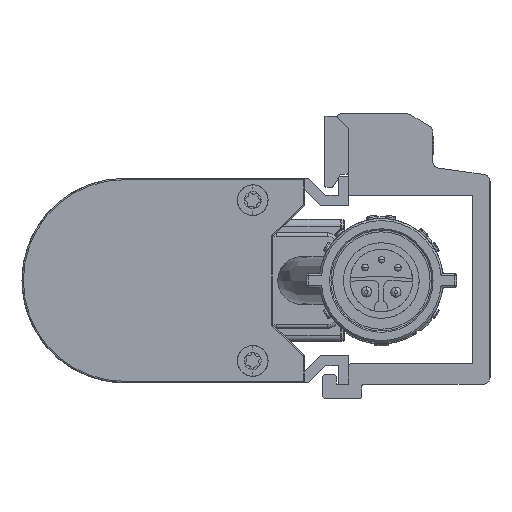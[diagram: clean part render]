
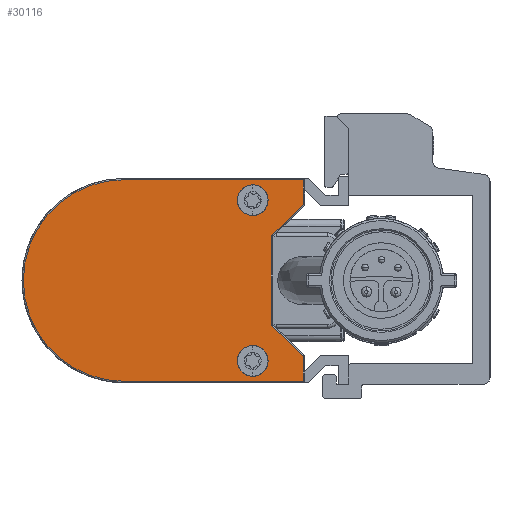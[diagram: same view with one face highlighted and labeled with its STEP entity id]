
A CAD part, left-side view. The second image highlights one B-rep face of the part: STEP entity #30116.
In plain terms, the highlighted planar face has unit normal (-1, 0, 0).
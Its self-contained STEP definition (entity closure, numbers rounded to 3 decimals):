
#138 = AXIS2_PLACEMENT_3D ( 'NONE', #29332, #51736, #38289 ) ;
#412 = LINE ( 'NONE', #9055, #37571 ) ;
#744 = ORIENTED_EDGE ( 'NONE', *, *, #14474, .F. ) ;
#1051 = VERTEX_POINT ( 'NONE', #21460 ) ;
#1267 = LINE ( 'NONE', #19962, #33360 ) ;
#2464 = FACE_BOUND ( 'NONE', #58699, .T. ) ;
#3308 = DIRECTION ( 'NONE',  ( 0., 0., 1. ) ) ;
#3498 = CARTESIAN_POINT ( 'NONE',  ( -150., 14.134, 9.55 ) ) ;
#3548 = DIRECTION ( 'NONE',  ( -1., 0., 0. ) ) ;
#4183 = CARTESIAN_POINT ( 'NONE',  ( -150., 6.7, 14.8 ) ) ;
#4461 = VERTEX_POINT ( 'NONE', #29940 ) ;
#5449 = DIRECTION ( 'NONE',  ( 0., 0., 1. ) ) ;
#5480 = DIRECTION ( 'NONE',  ( 0., -0.718, -0.696 ) ) ;
#8148 = DIRECTION ( 'NONE',  ( -1., 0., 0. ) ) ;
#8343 = VERTEX_POINT ( 'NONE', #51294 ) ;
#8603 = VECTOR ( 'NONE', #21295, 1000. ) ;
#8992 = CARTESIAN_POINT ( 'NONE',  ( -150., 33., -14.8 ) ) ;
#9055 = CARTESIAN_POINT ( 'NONE',  ( -150., 6.7, -14.8 ) ) ;
#9263 = EDGE_CURVE ( 'NONE', #38380, #22587, #36804, .T. ) ;
#10676 = DIRECTION ( 'NONE',  ( 0., 0.696, 0.718 ) ) ;
#11096 = EDGE_CURVE ( 'NONE', #34465, #55353, #38497, .T. ) ;
#11101 = FACE_BOUND ( 'NONE', #43350, .T. ) ;
#11107 = AXIS2_PLACEMENT_3D ( 'NONE', #49615, #46313, #55233 ) ;
#11173 = VERTEX_POINT ( 'NONE', #35174 ) ;
#11489 = CARTESIAN_POINT ( 'NONE',  ( -150., 11.399, -6.415 ) ) ;
#12186 = ORIENTED_EDGE ( 'NONE', *, *, #9263, .F. ) ;
#12685 = EDGE_CURVE ( 'NONE', #1051, #55353, #58245, .T. ) ;
#13428 = AXIS2_PLACEMENT_3D ( 'NONE', #43193, #3548, #39889 ) ;
#13626 = ORIENTED_EDGE ( 'NONE', *, *, #12685, .F. ) ;
#13928 = ORIENTED_EDGE ( 'NONE', *, *, #29764, .F. ) ;
#14474 = EDGE_CURVE ( 'NONE', #22587, #38380, #39106, .T. ) ;
#14485 = VECTOR ( 'NONE', #19329, 1000. ) ;
#14672 = EDGE_CURVE ( 'NONE', #4461, #15015, #21169, .T. ) ;
#14923 = ORIENTED_EDGE ( 'NONE', *, *, #35242, .F. ) ;
#15015 = VERTEX_POINT ( 'NONE', #29281 ) ;
#15569 = ORIENTED_EDGE ( 'NONE', *, *, #49404, .T. ) ;
#15644 = VERTEX_POINT ( 'NONE', #11489 ) ;
#15933 = CARTESIAN_POINT ( 'NONE',  ( -150., 6.7, 11.135 ) ) ;
#16923 = DIRECTION ( 'NONE',  ( -1., 0., 0. ) ) ;
#18230 = AXIS2_PLACEMENT_3D ( 'NONE', #39713, #8148, #48679 ) ;
#18326 = VERTEX_POINT ( 'NONE', #28477 ) ;
#18665 = DIRECTION ( 'NONE',  ( 0., 0., -1. ) ) ;
#19329 = DIRECTION ( 'NONE',  ( 0., 0.718, -0.696 ) ) ;
#19962 = CARTESIAN_POINT ( 'NONE',  ( -150., 11.399, -6.415 ) ) ;
#20705 = LINE ( 'NONE', #15933, #8603 ) ;
#21169 = CIRCLE ( 'NONE', #54509, 0.4 ) ;
#21295 = DIRECTION ( 'NONE',  ( 0., 0., 1. ) ) ;
#21460 = CARTESIAN_POINT ( 'NONE',  ( -150., 33., -14.8 ) ) ;
#22046 = ORIENTED_EDGE ( 'NONE', *, *, #34338, .T. ) ;
#22587 = VERTEX_POINT ( 'NONE', #39715 ) ;
#23655 = EDGE_CURVE ( 'NONE', #18326, #57838, #46457, .T. ) ;
#24122 = LINE ( 'NONE', #56034, #14485 ) ;
#25842 = AXIS2_PLACEMENT_3D ( 'NONE', #28969, #16923, #51950 ) ;
#27573 = EDGE_CURVE ( 'NONE', #11173, #8343, #412, .T. ) ;
#27840 = LINE ( 'NONE', #55547, #29174 ) ;
#28063 = DIRECTION ( 'NONE',  ( 0., 0., 1. ) ) ;
#28477 = CARTESIAN_POINT ( 'NONE',  ( -150., 14.134, 14.05 ) ) ;
#28929 = CARTESIAN_POINT ( 'NONE',  ( -150., 14.134, -14.05 ) ) ;
#28969 = CARTESIAN_POINT ( 'NONE',  ( -150., 27.25, 0. ) ) ;
#29174 = VECTOR ( 'NONE', #5480, 1000. ) ;
#29281 = CARTESIAN_POINT ( 'NONE',  ( -150., 11.399, 6.415 ) ) ;
#29332 = CARTESIAN_POINT ( 'NONE',  ( -150., 14.134, 11.8 ) ) ;
#29764 = EDGE_CURVE ( 'NONE', #57838, #18326, #44870, .T. ) ;
#29836 = CARTESIAN_POINT ( 'NONE',  ( -150., 14.134, 11.8 ) ) ;
#29940 = CARTESIAN_POINT ( 'NONE',  ( -150., 11.278, 6.703 ) ) ;
#30116 = ADVANCED_FACE ( 'NONE', ( #11101, #2464, #33447 ), #39603, .T. ) ;
#30396 = DIRECTION ( 'NONE',  ( -1., 0., 0. ) ) ;
#31002 = EDGE_CURVE ( 'NONE', #1051, #11173, #31615, .T. ) ;
#31131 = VERTEX_POINT ( 'NONE', #33097 ) ;
#31615 = LINE ( 'NONE', #8992, #47926 ) ;
#33097 = CARTESIAN_POINT ( 'NONE',  ( -150., 6.7, 11.135 ) ) ;
#33360 = VECTOR ( 'NONE', #28063, 1000. ) ;
#33447 = FACE_OUTER_BOUND ( 'NONE', #44203, .T. ) ;
#33692 = CARTESIAN_POINT ( 'NONE',  ( -150., 11.278, -6.703 ) ) ;
#33732 = DIRECTION ( 'NONE',  ( 0., 1., 0. ) ) ;
#34338 = EDGE_CURVE ( 'NONE', #15644, #15015, #1267, .T. ) ;
#34465 = VERTEX_POINT ( 'NONE', #4183 ) ;
#35174 = CARTESIAN_POINT ( 'NONE',  ( -150., 6.7, -14.8 ) ) ;
#35242 = EDGE_CURVE ( 'NONE', #15644, #48058, #52553, .T. ) ;
#36201 = ORIENTED_EDGE ( 'NONE', *, *, #31002, .T. ) ;
#36249 = AXIS2_PLACEMENT_3D ( 'NONE', #46420, #41661, #18665 ) ;
#36419 = ORIENTED_EDGE ( 'NONE', *, *, #27573, .T. ) ;
#36804 = CIRCLE ( 'NONE', #11107, 2.25 ) ;
#36924 = ORIENTED_EDGE ( 'NONE', *, *, #45154, .F. ) ;
#37571 = VECTOR ( 'NONE', #5449, 1000. ) ;
#38289 = DIRECTION ( 'NONE',  ( 0., 0., -1. ) ) ;
#38380 = VERTEX_POINT ( 'NONE', #28929 ) ;
#38497 = LINE ( 'NONE', #52488, #52582 ) ;
#39106 = CIRCLE ( 'NONE', #13428, 2.25 ) ;
#39603 = PLANE ( 'NONE',  #25842 ) ;
#39713 = CARTESIAN_POINT ( 'NONE',  ( -150., 10.999, -6.415 ) ) ;
#39715 = CARTESIAN_POINT ( 'NONE',  ( -150., 14.134, -9.55 ) ) ;
#39889 = DIRECTION ( 'NONE',  ( 0., 0., 1. ) ) ;
#39977 = ORIENTED_EDGE ( 'NONE', *, *, #14672, .F. ) ;
#40263 = CARTESIAN_POINT ( 'NONE',  ( -150., 33., 14.8 ) ) ;
#41661 = DIRECTION ( 'NONE',  ( 1., 0., 0. ) ) ;
#41963 = CARTESIAN_POINT ( 'NONE',  ( -150., 10.999, 6.415 ) ) ;
#43193 = CARTESIAN_POINT ( 'NONE',  ( -150., 14.134, -11.8 ) ) ;
#43350 = EDGE_LOOP ( 'NONE', ( #50941, #13928 ) ) ;
#44203 = EDGE_LOOP ( 'NONE', ( #52703, #15569, #47828, #13626, #36201, #36419, #36924, #14923, #22046, #39977 ) ) ;
#44870 = CIRCLE ( 'NONE', #138, 2.25 ) ;
#45154 = EDGE_CURVE ( 'NONE', #48058, #8343, #27840, .T. ) ;
#46313 = DIRECTION ( 'NONE',  ( -1., 0., 0. ) ) ;
#46420 = CARTESIAN_POINT ( 'NONE',  ( -150., 33., 0. ) ) ;
#46457 = CIRCLE ( 'NONE', #51249, 2.25 ) ;
#47828 = ORIENTED_EDGE ( 'NONE', *, *, #11096, .T. ) ;
#47926 = VECTOR ( 'NONE', #53111, 1000. ) ;
#48058 = VERTEX_POINT ( 'NONE', #33692 ) ;
#48679 = DIRECTION ( 'NONE',  ( 0., 1., 0. ) ) ;
#49404 = EDGE_CURVE ( 'NONE', #31131, #34465, #20705, .T. ) ;
#49615 = CARTESIAN_POINT ( 'NONE',  ( -150., 14.134, -11.8 ) ) ;
#50940 = DIRECTION ( 'NONE',  ( -1., 0., 0. ) ) ;
#50941 = ORIENTED_EDGE ( 'NONE', *, *, #23655, .F. ) ;
#51249 = AXIS2_PLACEMENT_3D ( 'NONE', #29836, #30396, #3308 ) ;
#51294 = CARTESIAN_POINT ( 'NONE',  ( -150., 6.7, -11.135 ) ) ;
#51736 = DIRECTION ( 'NONE',  ( -1., 0., 0. ) ) ;
#51950 = DIRECTION ( 'NONE',  ( 0., 0., 1. ) ) ;
#52488 = CARTESIAN_POINT ( 'NONE',  ( -150., 6.7, 14.8 ) ) ;
#52553 = CIRCLE ( 'NONE', #18230, 0.4 ) ;
#52582 = VECTOR ( 'NONE', #33732, 1000. ) ;
#52703 = ORIENTED_EDGE ( 'NONE', *, *, #54589, .F. ) ;
#53111 = DIRECTION ( 'NONE',  ( 0., -1., 0. ) ) ;
#54509 = AXIS2_PLACEMENT_3D ( 'NONE', #41963, #50940, #10676 ) ;
#54589 = EDGE_CURVE ( 'NONE', #31131, #4461, #24122, .T. ) ;
#55233 = DIRECTION ( 'NONE',  ( 0., 0., -1. ) ) ;
#55353 = VERTEX_POINT ( 'NONE', #40263 ) ;
#55547 = CARTESIAN_POINT ( 'NONE',  ( -150., 11.278, -6.703 ) ) ;
#56034 = CARTESIAN_POINT ( 'NONE',  ( -150., 6.7, 11.135 ) ) ;
#57838 = VERTEX_POINT ( 'NONE', #3498 ) ;
#58245 = CIRCLE ( 'NONE', #36249, 14.8 ) ;
#58699 = EDGE_LOOP ( 'NONE', ( #744, #12186 ) ) ;
